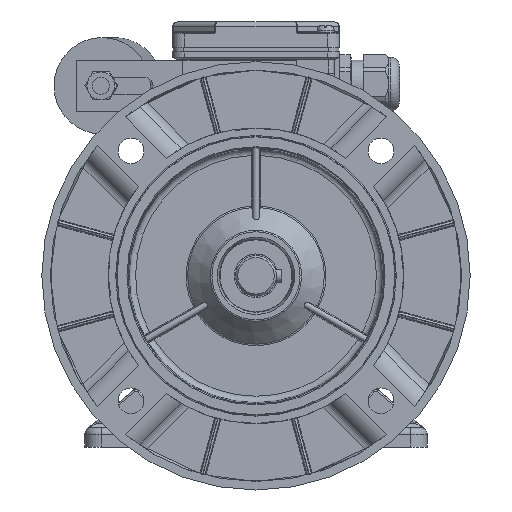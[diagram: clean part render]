
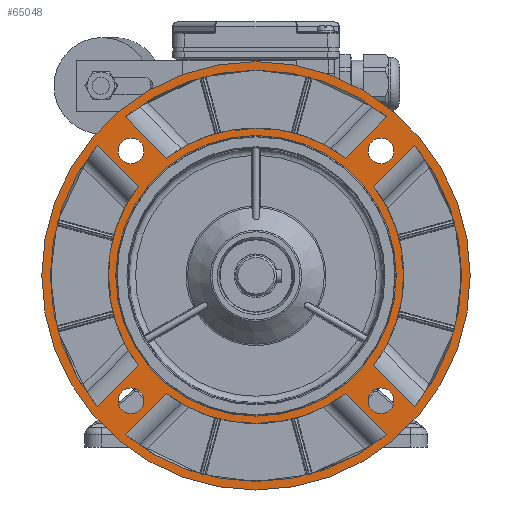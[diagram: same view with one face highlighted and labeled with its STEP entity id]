
A CAD part, left-side view. The second image highlights one B-rep face of the part: STEP entity #65048.
In plain terms, the highlighted planar face has unit normal (-1, 0, 0).
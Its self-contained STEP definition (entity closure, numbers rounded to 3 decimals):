
#2818=LINE('',#97739,#6495);
#2819=LINE('',#97744,#6496);
#2820=LINE('',#97747,#6497);
#2821=LINE('',#97752,#6498);
#2822=LINE('',#97757,#6499);
#2823=LINE('',#97762,#6500);
#2824=LINE('',#97765,#6501);
#2825=LINE('',#97770,#6502);
#6495=VECTOR('',#76844,1000.);
#6496=VECTOR('',#76847,1000.);
#6497=VECTOR('',#76850,1000.);
#6498=VECTOR('',#76853,1000.);
#6499=VECTOR('',#76858,1000.);
#6500=VECTOR('',#76861,1000.);
#6501=VECTOR('',#76864,1000.);
#6502=VECTOR('',#76867,1000.);
#9755=PLANE('',#68641);
#16468=ORIENTED_EDGE('',*,*,#28010,.T.);
#16469=ORIENTED_EDGE('',*,*,#28011,.T.);
#16470=ORIENTED_EDGE('',*,*,#28012,.T.);
#16471=ORIENTED_EDGE('',*,*,#28013,.T.);
#16472=ORIENTED_EDGE('',*,*,#28014,.T.);
#16473=ORIENTED_EDGE('',*,*,#28015,.T.);
#16474=ORIENTED_EDGE('',*,*,#28016,.T.);
#16475=ORIENTED_EDGE('',*,*,#28017,.T.);
#16476=ORIENTED_EDGE('',*,*,#27972,.F.);
#16477=ORIENTED_EDGE('',*,*,#27971,.F.);
#16478=ORIENTED_EDGE('',*,*,#27970,.F.);
#16479=ORIENTED_EDGE('',*,*,#27969,.F.);
#16480=ORIENTED_EDGE('',*,*,#28018,.T.);
#16481=ORIENTED_EDGE('',*,*,#28009,.T.);
#16482=ORIENTED_EDGE('',*,*,#28019,.T.);
#16483=ORIENTED_EDGE('',*,*,#28020,.T.);
#16484=ORIENTED_EDGE('',*,*,#28021,.T.);
#16485=ORIENTED_EDGE('',*,*,#28022,.T.);
#16486=ORIENTED_EDGE('',*,*,#28023,.T.);
#16487=ORIENTED_EDGE('',*,*,#28024,.T.);
#16488=ORIENTED_EDGE('',*,*,#28025,.T.);
#16489=ORIENTED_EDGE('',*,*,#28026,.T.);
#27969=EDGE_CURVE('',#34196,#34196,#37953,.T.);
#27970=EDGE_CURVE('',#34197,#34197,#37954,.T.);
#27971=EDGE_CURVE('',#34198,#34198,#37955,.T.);
#27972=EDGE_CURVE('',#34199,#34199,#37956,.T.);
#28009=EDGE_CURVE('',#34220,#34220,#37966,.T.);
#28010=EDGE_CURVE('',#34221,#34222,#2818,.T.);
#28011=EDGE_CURVE('',#34222,#34223,#37967,.T.);
#28012=EDGE_CURVE('',#34223,#34224,#2819,.T.);
#28013=EDGE_CURVE('',#34224,#34221,#37968,.T.);
#28014=EDGE_CURVE('',#34225,#34226,#2820,.T.);
#28015=EDGE_CURVE('',#34226,#34227,#37969,.T.);
#28016=EDGE_CURVE('',#34227,#34228,#2821,.T.);
#28017=EDGE_CURVE('',#34228,#34225,#37970,.T.);
#28018=EDGE_CURVE('',#34229,#34229,#37971,.F.);
#28019=EDGE_CURVE('',#34230,#34231,#2822,.T.);
#28020=EDGE_CURVE('',#34231,#34232,#37972,.T.);
#28021=EDGE_CURVE('',#34232,#34233,#2823,.T.);
#28022=EDGE_CURVE('',#34233,#34230,#37973,.T.);
#28023=EDGE_CURVE('',#34234,#34235,#2824,.T.);
#28024=EDGE_CURVE('',#34235,#34236,#37974,.T.);
#28025=EDGE_CURVE('',#34236,#34237,#2825,.T.);
#28026=EDGE_CURVE('',#34237,#34234,#37975,.T.);
#34196=VERTEX_POINT('',#97581);
#34197=VERTEX_POINT('',#97584);
#34198=VERTEX_POINT('',#97587);
#34199=VERTEX_POINT('',#97590);
#34220=VERTEX_POINT('',#97737);
#34221=VERTEX_POINT('',#97740);
#34222=VERTEX_POINT('',#97741);
#34223=VERTEX_POINT('',#97743);
#34224=VERTEX_POINT('',#97745);
#34225=VERTEX_POINT('',#97748);
#34226=VERTEX_POINT('',#97749);
#34227=VERTEX_POINT('',#97751);
#34228=VERTEX_POINT('',#97753);
#34229=VERTEX_POINT('',#97756);
#34230=VERTEX_POINT('',#97758);
#34231=VERTEX_POINT('',#97759);
#34232=VERTEX_POINT('',#97761);
#34233=VERTEX_POINT('',#97763);
#34234=VERTEX_POINT('',#97766);
#34235=VERTEX_POINT('',#97767);
#34236=VERTEX_POINT('',#97769);
#34237=VERTEX_POINT('',#97771);
#37953=CIRCLE('',#68605,6.);
#37954=CIRCLE('',#68607,6.);
#37955=CIRCLE('',#68609,6.);
#37956=CIRCLE('',#68611,6.);
#37966=CIRCLE('',#68640,100.);
#37967=CIRCLE('',#68642,69.);
#37968=CIRCLE('',#68643,96.);
#37969=CIRCLE('',#68644,69.);
#37970=CIRCLE('',#68645,96.);
#37971=CIRCLE('',#68646,65.5);
#37972=CIRCLE('',#68647,69.);
#37973=CIRCLE('',#68648,96.);
#37974=CIRCLE('',#68649,69.);
#37975=CIRCLE('',#68650,96.);
#40433=EDGE_LOOP('',(#16468,#16469,#16470,#16471));
#40434=EDGE_LOOP('',(#16472,#16473,#16474,#16475));
#40435=EDGE_LOOP('',(#16476));
#40436=EDGE_LOOP('',(#16477));
#40437=EDGE_LOOP('',(#16478));
#40438=EDGE_LOOP('',(#16479));
#40439=EDGE_LOOP('',(#16480));
#40440=EDGE_LOOP('',(#16481));
#40441=EDGE_LOOP('',(#16482,#16483,#16484,#16485));
#40442=EDGE_LOOP('',(#16486,#16487,#16488,#16489));
#43619=FACE_BOUND('',#40433,.T.);
#43620=FACE_BOUND('',#40434,.T.);
#43621=FACE_BOUND('',#40435,.T.);
#43622=FACE_BOUND('',#40436,.T.);
#43623=FACE_BOUND('',#40437,.T.);
#43624=FACE_BOUND('',#40438,.T.);
#43625=FACE_BOUND('',#40439,.T.);
#43626=FACE_BOUND('',#40440,.T.);
#43627=FACE_BOUND('',#40441,.T.);
#43628=FACE_BOUND('',#40442,.T.);
#65048=ADVANCED_FACE('',(#43619,#43620,#43621,#43622,#43623,#43624,#43625,
#43626,#43627,#43628),#9755,.T.);
#68605=AXIS2_PLACEMENT_3D('',#97580,#76754,#76755);
#68607=AXIS2_PLACEMENT_3D('',#97583,#76758,#76759);
#68609=AXIS2_PLACEMENT_3D('',#97586,#76762,#76763);
#68611=AXIS2_PLACEMENT_3D('',#97589,#76766,#76767);
#68640=AXIS2_PLACEMENT_3D('',#97736,#76840,#76841);
#68641=AXIS2_PLACEMENT_3D('',#97738,#76842,#76843);
#68642=AXIS2_PLACEMENT_3D('',#97742,#76845,#76846);
#68643=AXIS2_PLACEMENT_3D('',#97746,#76848,#76849);
#68644=AXIS2_PLACEMENT_3D('',#97750,#76851,#76852);
#68645=AXIS2_PLACEMENT_3D('',#97754,#76854,#76855);
#68646=AXIS2_PLACEMENT_3D('',#97755,#76856,#76857);
#68647=AXIS2_PLACEMENT_3D('',#97760,#76859,#76860);
#68648=AXIS2_PLACEMENT_3D('',#97764,#76862,#76863);
#68649=AXIS2_PLACEMENT_3D('',#97768,#76865,#76866);
#68650=AXIS2_PLACEMENT_3D('',#97772,#76868,#76869);
#76754=DIRECTION('',(-1.,0.,0.));
#76755=DIRECTION('',(0.,-1.,0.));
#76758=DIRECTION('',(-1.,0.,0.));
#76759=DIRECTION('',(0.,-1.,0.));
#76762=DIRECTION('',(-1.,0.,0.));
#76763=DIRECTION('',(0.,-1.,0.));
#76766=DIRECTION('',(-1.,0.,0.));
#76767=DIRECTION('',(0.,-1.,0.));
#76840=DIRECTION('',(-1.,0.,0.));
#76841=DIRECTION('',(0.,0.,-1.));
#76842=DIRECTION('',(-1.,0.,0.));
#76843=DIRECTION('',(0.,0.,-1.));
#76844=DIRECTION('',(0.,-0.707,-0.707));
#76845=DIRECTION('',(-1.,0.,0.));
#76846=DIRECTION('',(0.,-1.,0.));
#76847=DIRECTION('',(0.,0.707,-0.707));
#76848=DIRECTION('',(1.,0.,0.));
#76849=DIRECTION('',(0.,-1.,0.));
#76850=DIRECTION('',(0.,0.707,0.707));
#76851=DIRECTION('',(-1.,0.,0.));
#76852=DIRECTION('',(0.,1.,0.));
#76853=DIRECTION('',(0.,-0.707,0.707));
#76854=DIRECTION('',(1.,0.,0.));
#76855=DIRECTION('',(0.,1.,0.));
#76856=DIRECTION('',(-1.,0.,0.));
#76857=DIRECTION('',(0.,0.,-1.));
#76858=DIRECTION('',(0.,-0.707,0.707));
#76859=DIRECTION('',(-1.,0.,0.));
#76860=DIRECTION('',(0.,0.,1.));
#76861=DIRECTION('',(0.,-0.707,-0.707));
#76862=DIRECTION('',(1.,0.,0.));
#76863=DIRECTION('',(0.,0.,1.));
#76864=DIRECTION('',(0.,0.707,-0.707));
#76865=DIRECTION('',(-1.,0.,0.));
#76866=DIRECTION('',(0.,0.,-1.));
#76867=DIRECTION('',(0.,0.707,0.707));
#76868=DIRECTION('',(1.,0.,0.));
#76869=DIRECTION('',(0.,0.,-1.));
#97580=CARTESIAN_POINT('',(-44.8,58.336,58.336));
#97581=CARTESIAN_POINT('',(-44.8,52.336,58.336));
#97583=CARTESIAN_POINT('',(-44.8,-58.336,58.336));
#97584=CARTESIAN_POINT('',(-44.8,-64.336,58.336));
#97586=CARTESIAN_POINT('',(-44.8,-58.336,-58.336));
#97587=CARTESIAN_POINT('',(-44.8,-64.336,-58.336));
#97589=CARTESIAN_POINT('',(-44.8,58.336,-58.336));
#97590=CARTESIAN_POINT('',(-44.8,52.336,-58.336));
#97736=CARTESIAN_POINT('',(-44.8,0.,0.));
#97737=CARTESIAN_POINT('',(-44.8,0.,-100.));
#97738=CARTESIAN_POINT('',(-44.8,0.,-65.));
#97739=CARTESIAN_POINT('',(-44.8,53.605,40.403));
#97740=CARTESIAN_POINT('',(-44.8,74.161,60.96));
#97741=CARTESIAN_POINT('',(-44.8,54.943,41.741));
#97742=CARTESIAN_POINT('',(-44.8,0.,0.));
#97743=CARTESIAN_POINT('',(-44.8,54.943,-41.741));
#97744=CARTESIAN_POINT('',(-44.8,73.211,-60.009));
#97745=CARTESIAN_POINT('',(-44.8,74.161,-60.96));
#97746=CARTESIAN_POINT('',(-44.8,0.,0.));
#97747=CARTESIAN_POINT('',(-44.8,-53.605,-40.403));
#97748=CARTESIAN_POINT('',(-44.8,-74.161,-60.96));
#97749=CARTESIAN_POINT('',(-44.8,-54.943,-41.741));
#97750=CARTESIAN_POINT('',(-44.8,0.,0.));
#97751=CARTESIAN_POINT('',(-44.8,-54.943,41.741));
#97752=CARTESIAN_POINT('',(-44.8,-73.211,60.009));
#97753=CARTESIAN_POINT('',(-44.8,-74.161,60.96));
#97754=CARTESIAN_POINT('',(-44.8,0.,0.));
#97755=CARTESIAN_POINT('',(-44.8,0.,0.));
#97756=CARTESIAN_POINT('',(-44.8,0.,-65.5));
#97757=CARTESIAN_POINT('',(-44.8,40.403,-53.605));
#97758=CARTESIAN_POINT('',(-44.8,60.96,-74.161));
#97759=CARTESIAN_POINT('',(-44.8,41.741,-54.943));
#97760=CARTESIAN_POINT('',(-44.8,0.,0.));
#97761=CARTESIAN_POINT('',(-44.8,-41.741,-54.943));
#97762=CARTESIAN_POINT('',(-44.8,-60.009,-73.211));
#97763=CARTESIAN_POINT('',(-44.8,-60.96,-74.161));
#97764=CARTESIAN_POINT('',(-44.8,0.,0.));
#97765=CARTESIAN_POINT('',(-44.8,-40.403,53.605));
#97766=CARTESIAN_POINT('',(-44.8,-60.96,74.161));
#97767=CARTESIAN_POINT('',(-44.8,-41.741,54.943));
#97768=CARTESIAN_POINT('',(-44.8,0.,0.));
#97769=CARTESIAN_POINT('',(-44.8,41.741,54.943));
#97770=CARTESIAN_POINT('',(-44.8,60.009,73.211));
#97771=CARTESIAN_POINT('',(-44.8,60.96,74.161));
#97772=CARTESIAN_POINT('',(-44.8,0.,0.));
